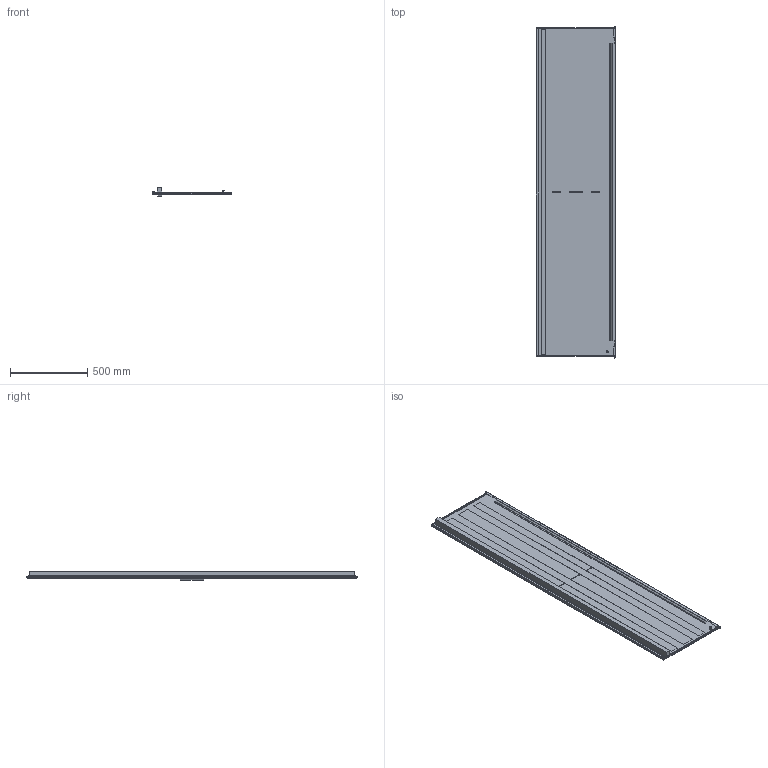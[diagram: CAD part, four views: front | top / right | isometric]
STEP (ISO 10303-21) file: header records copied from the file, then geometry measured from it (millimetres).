
FILE_DESCRIPTION (( 'STEP AP203' ), '1' );
FILE_NAME ('D 220.60 IP Äâåðü òåëåêîììóíèêàöèîííàÿ ïåðôîðèðîâàííàÿ.STEP', '2013-01-15T06:48:08', ( 'System' ), ( '' ), 'SwSTEP 2.0', 'SolidWorks 2012', '' );
FILE_SCHEMA (( 'CONFIG_CONTROL_DESIGN' ));
Length unit declared in the file: millimetre
Products named in the file (1): D 220.60 IP Äâåðü òåëåêîììóíèêàöèîííàÿ ïåðôîðèðîâàííàÿ
Bounding box: 518 x 2153.5 x 55 mm (x, y, z)
Volume: 4339395.1 mm3; surface area: 2739611.3 mm2
Topology: 5 solids, 5 shells, 258 faces, 626 edges, 366 vertices
Faces by surface type: cylinder 124, plane 86, sphere 24, cone 20, torus 4
Entity records: 7521 total; most frequent: DIRECTION 1402, CARTESIAN_POINT 1231, ORIENTED_EDGE 1212, EDGE_CURVE 606, AXIS2_PLACEMENT_3D 537, VERTEX_POINT 366, VECTOR 328, LINE 328
